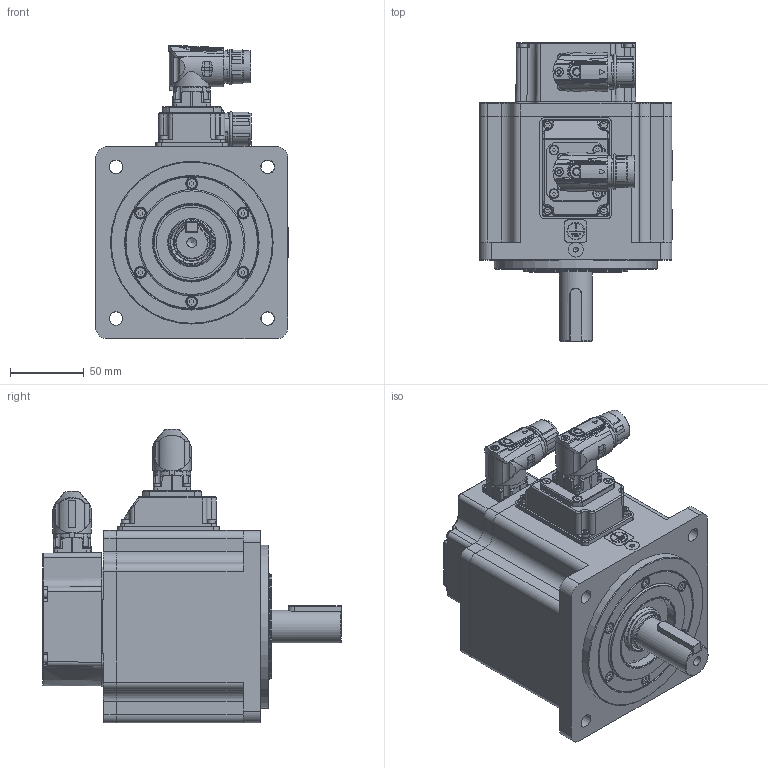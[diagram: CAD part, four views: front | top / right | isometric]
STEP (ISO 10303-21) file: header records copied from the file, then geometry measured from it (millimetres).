
FILE_DESCRIPTION( ( 'Unknown' ), '1' );
FILE_NAME( 'U:/05_Progetto TCE/010-TCE motor drawings/TCE130/Vuoti/TCE130 5A XX 3 A2 0 C2.stp', 'Unknown', ( 'Unknown' ), ( 'Unknown' ), 'PSStep 17.0.49', 'Unknown', ' ' );
FILE_SCHEMA( ( 'AUTOMOTIVE_DESIGN { 1 0 10303 214 1 1 1 1 }' ) );
Length unit declared in the file: millimetre
Products named in the file (13): 005204000002
Bounding box: 130.3 x 202 x 198.5 mm (x, y, z)
Volume: 938078.9 mm3; surface area: 294364.2 mm2
Topology: 13 solids, 83 shells, 2984 faces, 7499 edges, 4848 vertices
Faces by surface type: plane 1444, cylinder 729, cone 292, bspline 231, torus 169, sphere 81, extrusion 38
Full cylindrical faces by diameter (mm): 0.5 x1, 1 x21, 1.2 x17, 1.4 x4, 2 x4, 2.013 x4, 2.2 x2, 2.459 x24, 2.5 x8, 2.6 x4, 2.8 x4, 3 x29, 3.2 x1, 3.242 x24, 3.5 x8, 4 x15, 4.134 x16, 4.4 x4, 4.5 x8, 4.7 x4, 5 x8, 5.5 x19, 5.8 x1, 5.9 x2, 6.647 x2, 6.8 x1, 7 x10, 8 x11, 8.5 x8, 10 x1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
Entity records: 125623 total; most frequent: CARTESIAN_POINT 36971, DIRECTION 13166, ORIENTED_EDGE 12848, EDGE_CURVE 6424, AXIS2_PLACEMENT_3D 4934, VERTEX_POINT 4551, EDGE_LOOP 3969, FACE_OUTER_BOUND 3451
